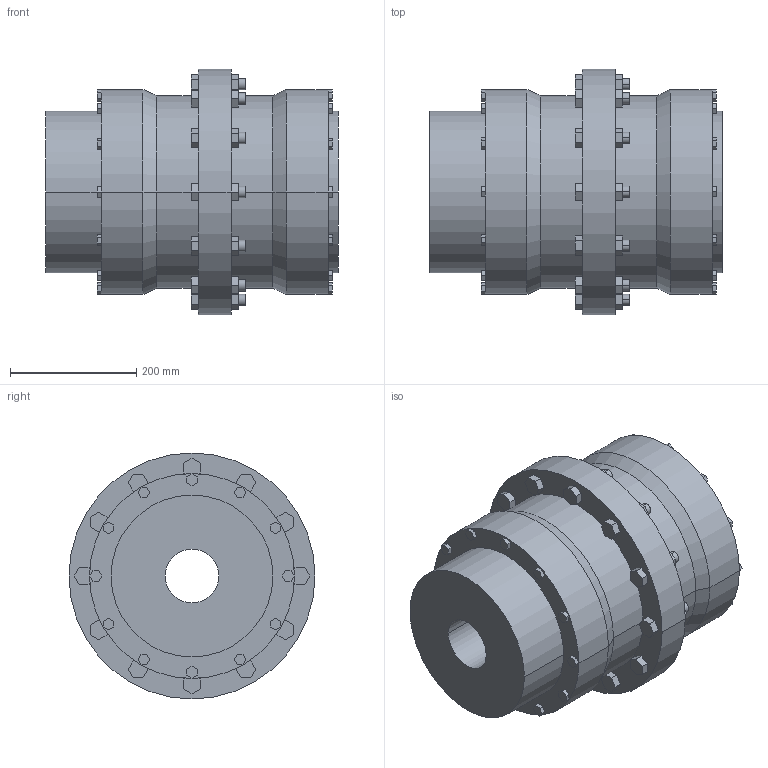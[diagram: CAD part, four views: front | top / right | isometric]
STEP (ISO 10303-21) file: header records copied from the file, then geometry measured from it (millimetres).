
FILE_DESCRIPTION((''),'2;1');
FILE_NAME('A19712300-0_ASM','2019-05-23T',('AB_Roschiwal'),('RENK AG'),'PRO/ENGINEER BY PARAMETRIC TECHNOLOGY CORPORATION, 2015440','PRO/ENGINEER BY PARAMETRIC TECHNOLOGY CORPORATION, 2015440','');
FILE_SCHEMA(('CONFIG_CONTROL_DESIGN'));
Length unit declared in the file: millimetre
Products named in the file (3): SBK160_GEHAEUSE; SBK160_NABE; A19712300-0_ASM
Assembly tree (3 placements, depth 2):
  A19712300-0_ASM
    SBK160_GEHAEUSE
    SBK160_NABE  x2
Bounding box: 464 x 390 x 390 mm (x, y, z)
Volume: 27435424.3 mm3; surface area: 1518921.4 mm2
Topology: 3 solids, 3 shells, 422 faces, 1036 edges, 688 vertices
Faces by surface type: plane 362, cylinder 56, cone 4
Entity records: 12052 total; most frequent: CARTESIAN_POINT 2100, ORIENTED_EDGE 2024, DIRECTION 1940, EDGE_CURVE 1012, VECTOR 916, LINE 916, VERTEX_POINT 672, AXIS2_PLACEMENT_3D 512
